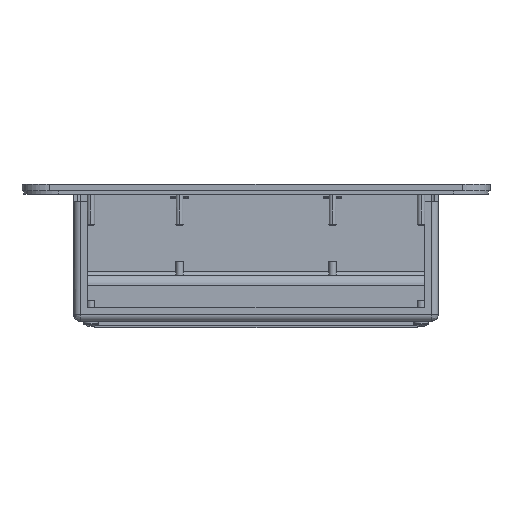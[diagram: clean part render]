
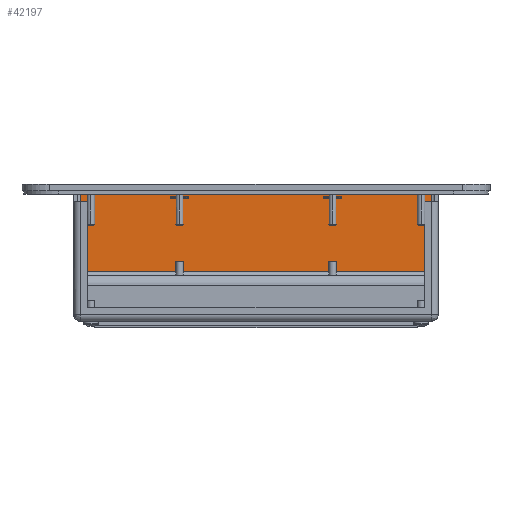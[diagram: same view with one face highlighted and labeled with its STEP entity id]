
A CAD part, front view. The second image highlights one B-rep face of the part: STEP entity #42197.
In plain terms, the highlighted planar face has unit normal (0, -1, 0).
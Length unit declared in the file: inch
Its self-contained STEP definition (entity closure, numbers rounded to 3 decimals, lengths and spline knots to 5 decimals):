
#994 = VERTEX_POINT ( 'NONE', #37960 ) ;
#1170 = LINE ( 'NONE', #42112, #12581 ) ;
#3825 = VECTOR ( 'NONE', #13436, 39.37008 ) ;
#4605 = AXIS2_PLACEMENT_3D ( 'NONE', #54858, #41864, #50882 ) ;
#5782 = LINE ( 'NONE', #45009, #23862 ) ;
#7780 = LINE ( 'NONE', #55739, #3825 ) ;
#12083 = CARTESIAN_POINT ( 'NONE',  ( 3.31, 4.845, -1.592 ) ) ;
#12313 = ORIENTED_EDGE ( 'NONE', *, *, #21933, .T. ) ;
#12581 = VECTOR ( 'NONE', #37604, 39.37008 ) ;
#13436 = DIRECTION ( 'NONE',  ( 1., 0., 0. ) ) ;
#13944 = VERTEX_POINT ( 'NONE', #38459 ) ;
#19644 = ORIENTED_EDGE ( 'NONE', *, *, #39555, .T. ) ;
#19749 = FACE_OUTER_BOUND ( 'NONE', #38892, .T. ) ;
#20935 = LINE ( 'NONE', #12083, #21576 ) ;
#21576 = VECTOR ( 'NONE', #55561, 39.37008 ) ;
#21933 = EDGE_CURVE ( 'NONE', #41866, #994, #5782, .T. ) ;
#23862 = VECTOR ( 'NONE', #44632, 39.37008 ) ;
#37604 = DIRECTION ( 'NONE',  ( 0., 0., 1. ) ) ;
#37676 = EDGE_CURVE ( 'NONE', #13944, #994, #20935, .T. ) ;
#37960 = CARTESIAN_POINT ( 'NONE',  ( -3.19, 4.845, -1.592 ) ) ;
#38459 = CARTESIAN_POINT ( 'NONE',  ( 3.19, 4.845, -1.592 ) ) ;
#38892 = EDGE_LOOP ( 'NONE', ( #12313, #49872, #19644, #43940 ) ) ;
#39555 = EDGE_CURVE ( 'NONE', #13944, #45126, #1170, .T. ) ;
#41864 = DIRECTION ( 'NONE',  ( 0., 1., 0. ) ) ;
#41866 = VERTEX_POINT ( 'NONE', #47929 ) ;
#42112 = CARTESIAN_POINT ( 'NONE',  ( 3.19, 4.845, -0.182 ) ) ;
#42197 = ADVANCED_FACE ( 'NONE', ( #19749 ), #51060, .F. ) ;
#43940 = ORIENTED_EDGE ( 'NONE', *, *, #51766, .F. ) ;
#44632 = DIRECTION ( 'NONE',  ( 0., 0., -1. ) ) ;
#45009 = CARTESIAN_POINT ( 'NONE',  ( -3.19, 4.845, -0.182 ) ) ;
#45126 = VERTEX_POINT ( 'NONE', #46230 ) ;
#46230 = CARTESIAN_POINT ( 'NONE',  ( 3.19, 4.845, -0.182 ) ) ;
#47929 = CARTESIAN_POINT ( 'NONE',  ( -3.19, 4.845, -0.182 ) ) ;
#49872 = ORIENTED_EDGE ( 'NONE', *, *, #37676, .F. ) ;
#50882 = DIRECTION ( 'NONE',  ( 0., 0., 1. ) ) ;
#51060 = PLANE ( 'NONE',  #4605 ) ;
#51766 = EDGE_CURVE ( 'NONE', #41866, #45126, #7780, .T. ) ;
#54858 = CARTESIAN_POINT ( 'NONE',  ( 3.31, 4.845, -0.182 ) ) ;
#55561 = DIRECTION ( 'NONE',  ( -1., 0., 0. ) ) ;
#55739 = CARTESIAN_POINT ( 'NONE',  ( 3.31, 4.845, -0.182 ) ) ;
